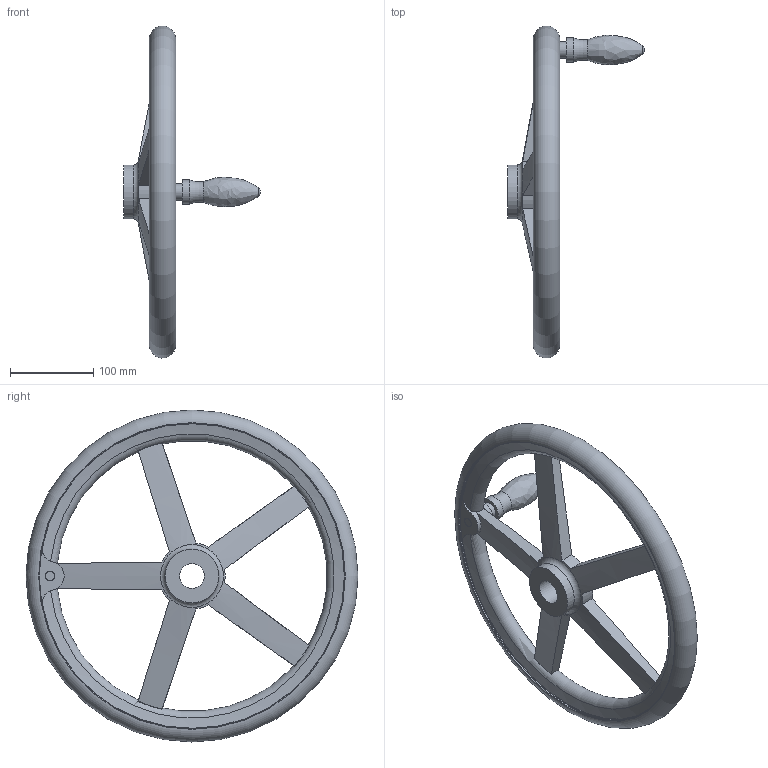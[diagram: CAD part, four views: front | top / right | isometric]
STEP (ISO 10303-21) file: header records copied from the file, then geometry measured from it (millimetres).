
FILE_DESCRIPTION( ( 'STEP AP203' ), '1' );
FILE_NAME( 'C:/Temp/Ganter_Step_05_03_2020/data/1_3/din_950/din_950_b/din_950_b_d/Handwheel DIN 950-GG-400-B30-D.stp', '2020-03-05T10:29:55', ( 'License CC BY-ND 4.0' ), ( 'CADENAS' ), ' ', 'PARTsolutions', ' ' );
FILE_SCHEMA( ( 'CONFIG_CONTROL_DESIGN' ) );
Length unit declared in the file: millimetre
Products named in the file (1): _Handwheel DIN 950-GG-400-B30-D
Bounding box: 165 x 399.9 x 399.9 mm (x, y, z)
Volume: 1438806.2 mm3; surface area: 210488 mm2
Topology: 1 solids, 1 shells, 61 faces, 176 edges, 113 vertices
Faces by surface type: torus 19, cylinder 18, plane 16, cone 6, bspline 1, sphere 1
Full cylindrical faces by diameter (mm): 20 x1, 29 x1, 30 x1, 65 x2, 368 x2
Entity records: 2477 total; most frequent: CARTESIAN_POINT 1011, ORIENTED_EDGE 298, DIRECTION 266, EDGE_CURVE 149, AXIS2_PLACEMENT_3D 124, VERTEX_POINT 109, EDGE_LOOP 90, FACE_OUTER_BOUND 77
